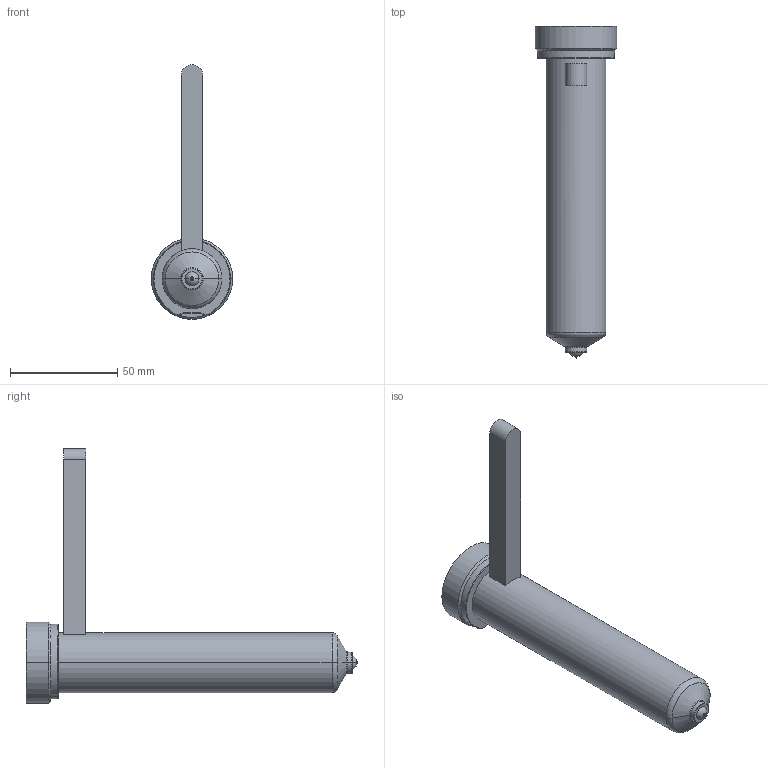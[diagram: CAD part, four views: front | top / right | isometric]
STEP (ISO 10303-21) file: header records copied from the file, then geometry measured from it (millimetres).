
FILE_DESCRIPTION((''),'2;1');
FILE_NAME('EO06_PG-BL_WR_140_COT','2024-02-19T11:04:10',('sundharh'),(''),'CREO PARAMETRIC BY PTC INC, 2023154','CREO PARAMETRIC BY PTC INC, 2023154','');
FILE_SCHEMA(('CONFIG_CONTROL_DESIGN'));
Length unit declared in the file: millimetre
Products named in the file (1): EO06_PG-BL_WR_140_COT
Bounding box: 38 x 155 x 119 mm (x, y, z)
Volume: 107046 mm3; surface area: 18987.2 mm2
Topology: 1 solids, 1 shells, 40 faces, 85 edges, 50 vertices
Faces by surface type: cylinder 13, plane 10, torus 9, cone 6, sphere 2
Entity records: 1197 total; most frequent: CARTESIAN_POINT 267, DIRECTION 209, ORIENTED_EDGE 170, AXIS2_PLACEMENT_3D 90, EDGE_CURVE 85, VERTEX_POINT 50, CIRCLE 50, EDGE_LOOP 43
